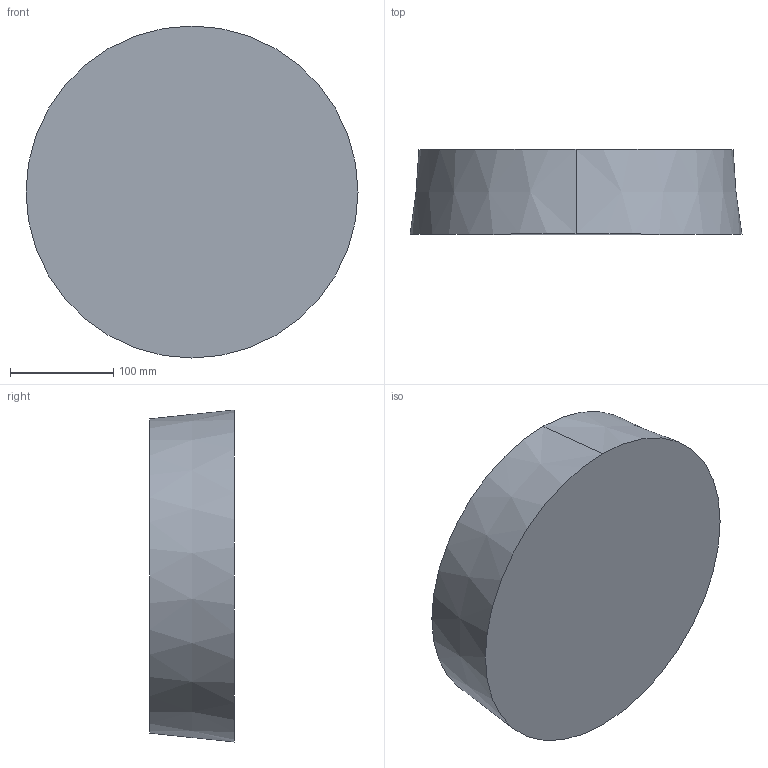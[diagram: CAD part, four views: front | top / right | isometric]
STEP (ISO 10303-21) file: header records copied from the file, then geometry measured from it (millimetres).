
FILE_DESCRIPTION (( 'STEP AP203' ), '1' );
FILE_NAME ('ORBIS32.STEP', '2025-06-20T06:46:14', ( '' ), ( '' ), 'SwSTEP 2.0', 'SolidWorks 2024', '' );
FILE_SCHEMA (( 'CONFIG_CONTROL_DESIGN' ));
Length unit declared in the file: millimetre
Products named in the file (1): ORBIS32
Bounding box: 322 x 82 x 322 mm (x, y, z)
Surface area: 252413.8 mm2 (no closed solid volume)
Topology: 0 solids, 2 shells, 36 faces, 99 edges, 66 vertices
Faces by surface type: cylinder 30, cone 4, plane 2
Entity records: 3031 total; most frequent: CARTESIAN_POINT 2200, ORIENTED_EDGE 138, DIRECTION 123, EDGE_CURVE 99, VERTEX_POINT 66, B_SPLINE_CURVE_WITH_KNOTS 58, AXIS2_PLACEMENT_3D 45, EDGE_LOOP 37
